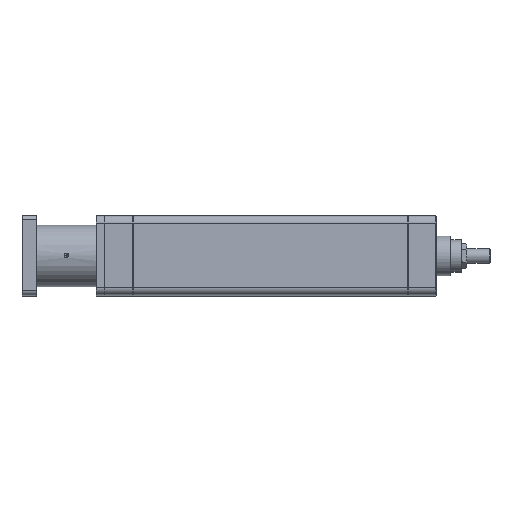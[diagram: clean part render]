
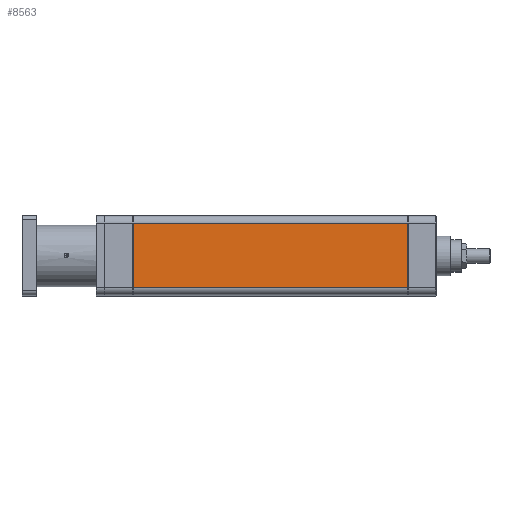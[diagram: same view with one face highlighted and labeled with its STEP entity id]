
A CAD part, left-side view. The second image highlights one B-rep face of the part: STEP entity #8563.
In plain terms, the highlighted planar face has unit normal (-1, 0, 0.019) as drawn and (1, 0, 0) by its records, which use the part's own axes.
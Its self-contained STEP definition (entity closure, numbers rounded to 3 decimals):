
#98 = VERTEX_POINT ( 'NONE', #7072 ) ;
#7072 = CARTESIAN_POINT ( 'NONE',  ( 55., 381.7, -44.5 ) ) ;
#8535 = VERTEX_POINT ( 'NONE', #20925 ) ;
#8537 = VERTEX_POINT ( 'NONE', #20923 ) ;
#8540 = VERTEX_POINT ( 'NONE', #20976 ) ;
#8546 = ORIENTED_EDGE ( 'NONE', *, *, #8564, .T. ) ;
#8547 = ORIENTED_EDGE ( 'NONE', *, *, #8556, .T. ) ;
#8554 = EDGE_LOOP ( 'NONE', ( #8547, #8546, #8558, #8574 ) ) ;
#8556 = EDGE_CURVE ( 'NONE', #8540, #8537, #20953, .T. ) ;
#8558 = ORIENTED_EDGE ( 'NONE', *, *, #8559, .F. ) ;
#8559 = EDGE_CURVE ( 'NONE', #98, #8535, #20949, .T. ) ;
#8563 = ADVANCED_FACE ( 'NONE', ( #20945 ), #21008, .F. ) ;
#8564 = EDGE_CURVE ( 'NONE', #8537, #8535, #21003, .T. ) ;
#8574 = ORIENTED_EDGE ( 'NONE', *, *, #8577, .T. ) ;
#8577 = EDGE_CURVE ( 'NONE', #98, #8540, #21034, .T. ) ;
#20923 = CARTESIAN_POINT ( 'NONE',  ( 55., 0.3, 44.5 ) ) ;
#20925 = CARTESIAN_POINT ( 'NONE',  ( 55., 0.3, -44.5 ) ) ;
#20945 = FACE_OUTER_BOUND ( 'NONE', #8554, .T. ) ;
#20946 = DIRECTION ( 'NONE',  ( 0., -1., 0. ) ) ;
#20947 = VECTOR ( 'NONE', #20946, 1000. ) ;
#20948 = CARTESIAN_POINT ( 'NONE',  ( 55., 382., -44.5 ) ) ;
#20949 = LINE ( 'NONE', #20948, #20947 ) ;
#20950 = DIRECTION ( 'NONE',  ( 0., -1., 0. ) ) ;
#20951 = VECTOR ( 'NONE', #20950, 1000. ) ;
#20952 = CARTESIAN_POINT ( 'NONE',  ( 55., 382., 44.5 ) ) ;
#20953 = LINE ( 'NONE', #20952, #20951 ) ;
#20976 = CARTESIAN_POINT ( 'NONE',  ( 55., 381.7, 44.5 ) ) ;
#21000 = DIRECTION ( 'NONE',  ( 0., 0., -1. ) ) ;
#21001 = VECTOR ( 'NONE', #21000, 1000. ) ;
#21002 = CARTESIAN_POINT ( 'NONE',  ( 55., 0.3, -44.5 ) ) ;
#21003 = LINE ( 'NONE', #21002, #21001 ) ;
#21004 = DIRECTION ( 'NONE',  ( 0., 0., 1. ) ) ;
#21005 = DIRECTION ( 'NONE',  ( -1., 0., 0. ) ) ;
#21006 = CARTESIAN_POINT ( 'NONE',  ( 55., 382., -44.5 ) ) ;
#21007 = AXIS2_PLACEMENT_3D ( 'NONE', #21006, #21005, #21004 ) ;
#21008 = PLANE ( 'NONE',  #21007 ) ;
#21031 = DIRECTION ( 'NONE',  ( 0., 0., 1. ) ) ;
#21032 = VECTOR ( 'NONE', #21031, 1000. ) ;
#21033 = CARTESIAN_POINT ( 'NONE',  ( 55., 381.7, 44.5 ) ) ;
#21034 = LINE ( 'NONE', #21033, #21032 ) ;
